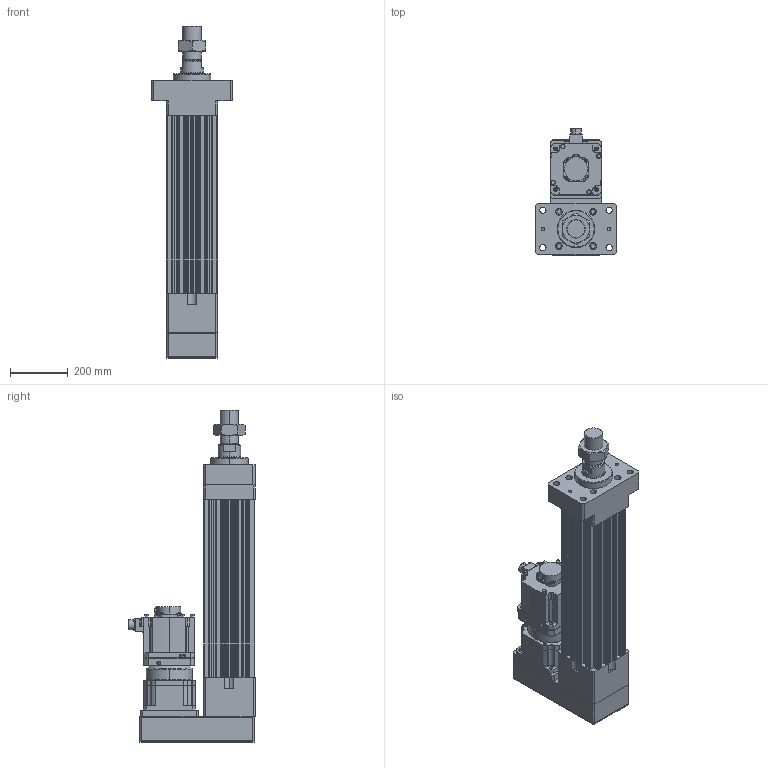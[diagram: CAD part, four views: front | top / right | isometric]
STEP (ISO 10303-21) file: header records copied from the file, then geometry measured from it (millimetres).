
FILE_DESCRIPTION (( 'STEP AP203' ), '1' );
FILE_NAME ('HES180HS-P300-W050G00-M-FMA.STEP', '2023-02-01T07:57:02', ( 'tms' ), ( '' ), 'SwSTEP 2.0', 'SolidWorks 2013', '' );
FILE_SCHEMA (( 'CONFIG_CONTROL_DESIGN' ));
Length unit declared in the file: millimetre
Products named in the file (9): AB1801; HES180-P300-G180-FMA; P1301600001; AB180-003[HG-SR702B]; M64X2.0P; HG-SR502; HES180HS-P300-W050G00-M-FMA; P0403600401; HES180 ROD M ST300
Assembly tree (8 placements, depth 3):
  HES180HS-P300-W050G00-M-FMA
    HES180-P300-G180-FMA
    HES180 ROD M ST300
    M64X2.0P
    AB180-003[HG-SR702B]
      AB1801
      P1301600001
      P0403600401
    HG-SR502
Bounding box: 280 x 438.85 x 1152 mm (x, y, z)
Volume: 27580550.6 mm3; surface area: 2298448.2 mm2
Topology: 4 solids, 19 shells, 1431 faces, 3715 edges, 2410 vertices
Faces by surface type: cylinder 663, plane 555, cone 146, bspline 63, torus 4
Entity records: 52578 total; most frequent: CARTESIAN_POINT 15982, DIRECTION 7693, ORIENTED_EDGE 7330, EDGE_CURVE 3689, AXIS2_PLACEMENT_3D 2901, VERTEX_POINT 2410, LINE 1891, VECTOR 1891
